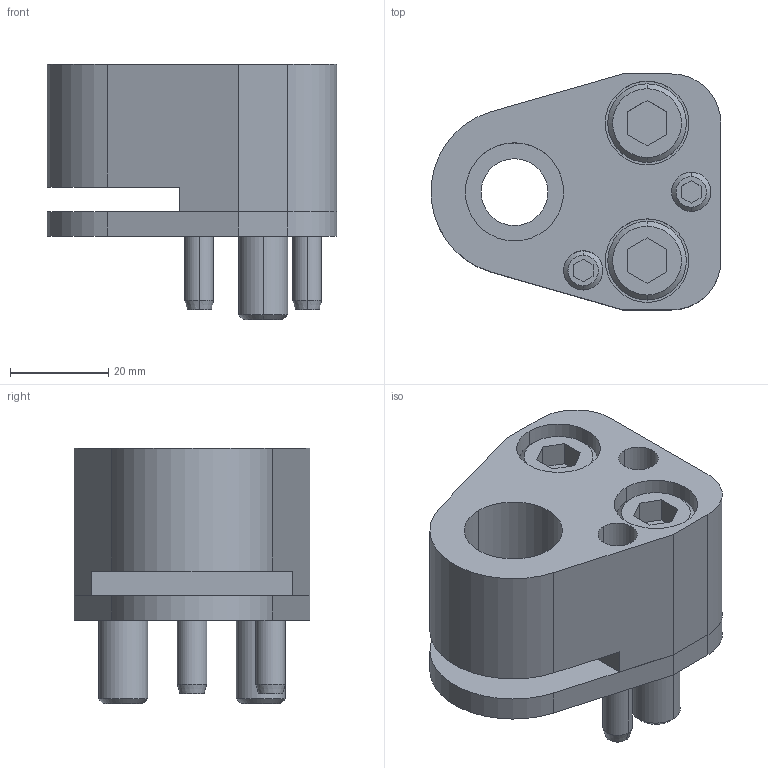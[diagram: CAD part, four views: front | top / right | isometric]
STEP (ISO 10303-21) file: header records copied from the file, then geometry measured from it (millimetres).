
FILE_DESCRIPTION(/* description */ (''),/* implementation_level */ '2;1');
FILE_NAME(/* name */ '3d_dp-fd20_02837_r00.stp',/* time_stamp */ '2011-01-10T14:15:57+09:00',/* author */ ('MISUMI'),/* organization */ (''),/* preprocessor_version */ 'ST-DEVELOPER v11',/* originating_system */ 'UGS - NX 5.0',/* authorisation */ '');
FILE_SCHEMA (('CONFIG_CONTROL_DESIGN'));
Length unit declared in the file: millimetre
Products named in the file (1): 3d_dp-fd20_02837_r00
Bounding box: 58.94 x 48 x 52 mm (x, y, z)
Volume: 66386.1 mm3; surface area: 26072.9 mm2
Topology: 8 solids, 8 shells, 154 faces, 350 edges, 225 vertices
Faces by surface type: plane 68, cylinder 60, cone 26
Entity records: 4500 total; most frequent: DIRECTION 802, CARTESIAN_POINT 787, ORIENTED_EDGE 700, EDGE_CURVE 350, AXIS2_PLACEMENT_3D 302, VERTEX_POINT 225, LINE 198, VECTOR 198
